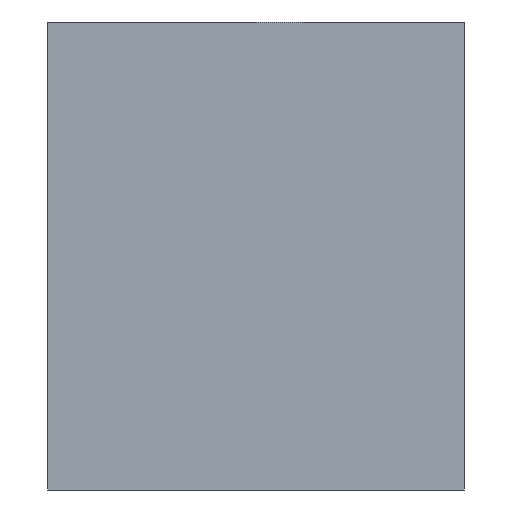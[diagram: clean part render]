
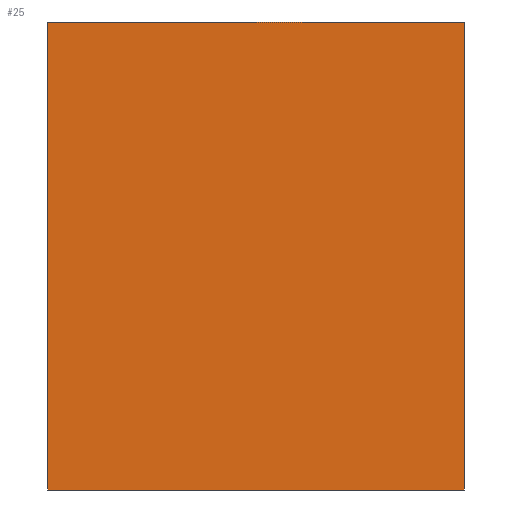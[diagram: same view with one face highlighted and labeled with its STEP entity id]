
A CAD part, left-side view. The second image highlights one B-rep face of the part: STEP entity #25.
In plain terms, the highlighted planar face has unit normal (-1, 0, 0).
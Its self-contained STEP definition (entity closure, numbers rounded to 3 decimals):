
#25=ADVANCED_FACE('',(#43),#264,.T.);
#43=FACE_OUTER_BOUND('',#61,.T.);
#61=EDGE_LOOP('',(#113,#114,#115,#116));
#113=ORIENTED_EDGE('',*,*,#177,.T.);
#114=ORIENTED_EDGE('',*,*,#178,.T.);
#115=ORIENTED_EDGE('',*,*,#179,.F.);
#116=ORIENTED_EDGE('',*,*,#174,.F.);
#174=EDGE_CURVE('',#254,#255,#196,.T.);
#177=EDGE_CURVE('',#254,#257,#199,.T.);
#178=EDGE_CURVE('',#257,#258,#200,.T.);
#179=EDGE_CURVE('',#255,#258,#201,.T.);
#196=B_SPLINE_CURVE_WITH_KNOTS('',1,(#873,#874),.UNSPECIFIED.,.F.,.F.,(2,
2),(0.,400.),.UNSPECIFIED.);
#199=B_SPLINE_CURVE_WITH_KNOTS('',1,(#879,#880,#881),.UNSPECIFIED.,.F.,
 .F.,(2,1,2),(-2000.,-1981.757,-1550.),.UNSPECIFIED.);
#200=B_SPLINE_CURVE_WITH_KNOTS('',1,(#882,#883),.UNSPECIFIED.,.F.,.F.,(2,
2),(0.,400.),.UNSPECIFIED.);
#201=B_SPLINE_CURVE_WITH_KNOTS('',1,(#884,#885,#886),.UNSPECIFIED.,.F.,
 .F.,(2,1,2),(-2000.,-1981.757,-1550.),.UNSPECIFIED.);
#254=VERTEX_POINT('',#606);
#255=VERTEX_POINT('',#607);
#257=VERTEX_POINT('',#609);
#258=VERTEX_POINT('',#610);
#264=PLANE('',#301);
#301=AXIS2_PLACEMENT_3D('',#581,#313,$);
#313=DIRECTION('',(-1.,0.,0.));
#581=CARTESIAN_POINT('',(2634.057,710.813,450.043));
#606=CARTESIAN_POINT('',(2634.057,710.813,450.043));
#607=CARTESIAN_POINT('',(2634.057,310.813,450.043));
#609=CARTESIAN_POINT('',(2634.057,710.813,0.043));
#610=CARTESIAN_POINT('',(2634.057,310.813,0.043));
#873=CARTESIAN_POINT('',(2634.057,710.813,450.043));
#874=CARTESIAN_POINT('',(2634.057,310.813,450.043));
#879=CARTESIAN_POINT('',(2634.057,710.813,450.043));
#880=CARTESIAN_POINT('',(2634.057,710.813,431.8));
#881=CARTESIAN_POINT('',(2634.057,710.813,0.043));
#882=CARTESIAN_POINT('',(2634.057,710.813,0.043));
#883=CARTESIAN_POINT('',(2634.057,310.813,0.043));
#884=CARTESIAN_POINT('',(2634.057,310.813,450.043));
#885=CARTESIAN_POINT('',(2634.057,310.813,431.8));
#886=CARTESIAN_POINT('',(2634.057,310.813,0.043));
